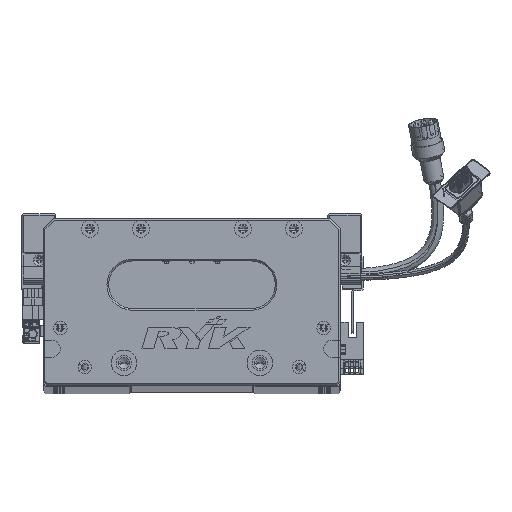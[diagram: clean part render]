
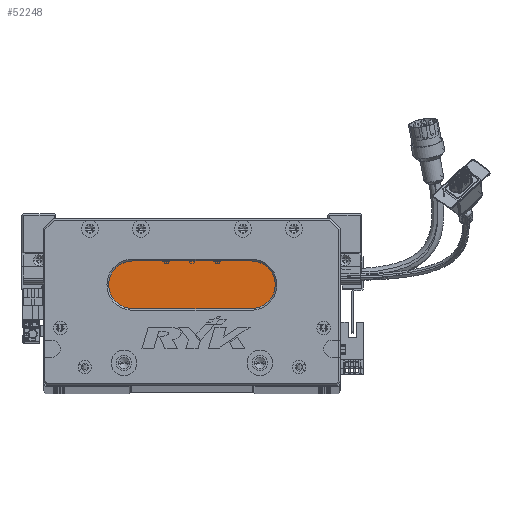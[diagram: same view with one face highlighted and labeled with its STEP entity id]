
A CAD part, top view. The second image highlights one B-rep face of the part: STEP entity #52248.
In plain terms, the highlighted planar face has unit normal (0, 0, 1) as drawn and (0, 0, -1) by its records, which use the part's own axes.
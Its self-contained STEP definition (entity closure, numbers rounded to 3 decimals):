
#1029 = LINE ( 'NONE', #14661, #49461 ) ;
#8835 = VERTEX_POINT ( 'NONE', #38861 ) ;
#9515 = DIRECTION ( 'NONE',  ( -1., 0., 0. ) ) ;
#10968 = EDGE_CURVE ( 'NONE', #65831, #98365, #1029, .T. ) ;
#14661 = CARTESIAN_POINT ( 'NONE',  ( 122.5, 73., 18. ) ) ;
#17177 = AXIS2_PLACEMENT_3D ( 'NONE', #122120, #111562, #64903 ) ;
#17849 = CARTESIAN_POINT ( 'NONE',  ( 122.5, 73., 18. ) ) ;
#20513 = DIRECTION ( 'NONE',  ( -1., 0., 0. ) ) ;
#22110 = DIRECTION ( 'NONE',  ( -1., 0., 0. ) ) ;
#23490 = AXIS2_PLACEMENT_3D ( 'NONE', #29832, #30251, #59822 ) ;
#29832 = CARTESIAN_POINT ( 'NONE',  ( 52.5, 59., 18. ) ) ;
#30251 = DIRECTION ( 'NONE',  ( 0., 0., -1. ) ) ;
#31083 = PLANE ( 'NONE',  #105468 ) ;
#32345 = CIRCLE ( 'NONE', #17177, 14. ) ;
#37844 = CARTESIAN_POINT ( 'NONE',  ( 122.5, 45., 18. ) ) ;
#38861 = CARTESIAN_POINT ( 'NONE',  ( 38.5, 59., 18. ) ) ;
#40237 = CARTESIAN_POINT ( 'NONE',  ( 52.5, 73., 18. ) ) ;
#48531 = EDGE_CURVE ( 'NONE', #98365, #55064, #90391, .T. ) ;
#49461 = VECTOR ( 'NONE', #56055, 1000. ) ;
#51684 = DIRECTION ( 'NONE',  ( 0., 0., -1. ) ) ;
#52199 = EDGE_CURVE ( 'NONE', #99627, #8835, #97519, .T. ) ;
#52248 = ADVANCED_FACE ( 'NONE', ( #101996 ), #31083, .T. ) ;
#55064 = VERTEX_POINT ( 'NONE', #100693 ) ;
#56055 = DIRECTION ( 'NONE',  ( 1., 0., 0. ) ) ;
#59822 = DIRECTION ( 'NONE',  ( -1., 0., 0. ) ) ;
#61826 = CARTESIAN_POINT ( 'NONE',  ( 122.5, 59., 18. ) ) ;
#64903 = DIRECTION ( 'NONE',  ( -1., 0., 0. ) ) ;
#65831 = VERTEX_POINT ( 'NONE', #40237 ) ;
#69619 = LINE ( 'NONE', #37844, #89302 ) ;
#69974 = DIRECTION ( 'NONE',  ( 0., 0., -1. ) ) ;
#78996 = CARTESIAN_POINT ( 'NONE',  ( 52.5, 45., 18. ) ) ;
#81640 = AXIS2_PLACEMENT_3D ( 'NONE', #61826, #51684, #22110 ) ;
#86580 = ORIENTED_EDGE ( 'NONE', *, *, #119040, .T. ) ;
#89302 = VECTOR ( 'NONE', #9515, 1000. ) ;
#89967 = EDGE_CURVE ( 'NONE', #55064, #99627, #69619, .T. ) ;
#90391 = CIRCLE ( 'NONE', #81640, 14. ) ;
#91769 = ORIENTED_EDGE ( 'NONE', *, *, #89967, .T. ) ;
#97519 = CIRCLE ( 'NONE', #23490, 14. ) ;
#98365 = VERTEX_POINT ( 'NONE', #17849 ) ;
#98822 = CARTESIAN_POINT ( 'NONE',  ( 122.5, 59., 18. ) ) ;
#99627 = VERTEX_POINT ( 'NONE', #78996 ) ;
#100693 = CARTESIAN_POINT ( 'NONE',  ( 122.5, 45., 18. ) ) ;
#101825 = ORIENTED_EDGE ( 'NONE', *, *, #52199, .T. ) ;
#101996 = FACE_OUTER_BOUND ( 'NONE', #108960, .T. ) ;
#105468 = AXIS2_PLACEMENT_3D ( 'NONE', #98822, #69974, #20513 ) ;
#108960 = EDGE_LOOP ( 'NONE', ( #125199, #91769, #101825, #86580, #125023 ) ) ;
#111562 = DIRECTION ( 'NONE',  ( 0., 0., -1. ) ) ;
#119040 = EDGE_CURVE ( 'NONE', #8835, #65831, #32345, .T. ) ;
#122120 = CARTESIAN_POINT ( 'NONE',  ( 52.5, 59., 18. ) ) ;
#125023 = ORIENTED_EDGE ( 'NONE', *, *, #10968, .T. ) ;
#125199 = ORIENTED_EDGE ( 'NONE', *, *, #48531, .T. ) ;
